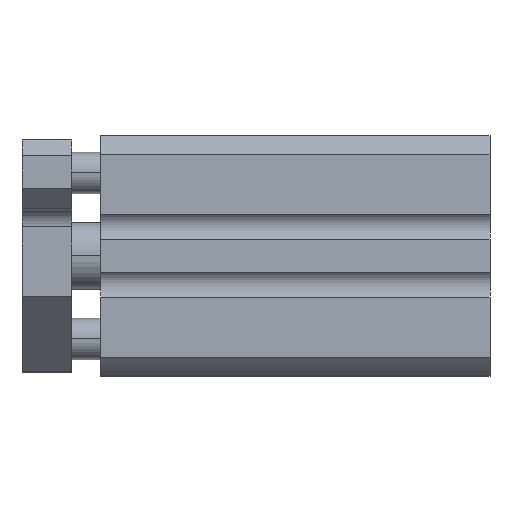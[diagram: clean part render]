
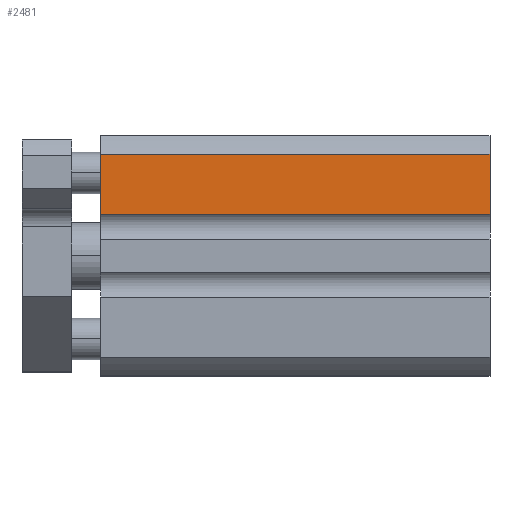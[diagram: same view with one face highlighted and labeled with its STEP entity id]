
A CAD part, top view. The second image highlights one B-rep face of the part: STEP entity #2481.
In plain terms, the highlighted planar face has unit normal (0, 0, 1).
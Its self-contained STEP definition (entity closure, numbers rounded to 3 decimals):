
#65 = DIRECTION ( 'NONE',  ( 0., -1., 0. ) ) ;
#128 = CARTESIAN_POINT ( 'NONE',  ( 0., 5., 14.5 ) ) ;
#233 = DIRECTION ( 'NONE',  ( -1., 0., 0. ) ) ;
#234 = VECTOR ( 'NONE', #65, 1000. ) ;
#828 = CARTESIAN_POINT ( 'NONE',  ( 47., 5., 14.5 ) ) ;
#943 = CARTESIAN_POINT ( 'NONE',  ( 47., 12.278, 14.5 ) ) ;
#1026 = DIRECTION ( 'NONE',  ( 0., -1., 0. ) ) ;
#1166 = EDGE_CURVE ( 'NONE', #3845, #3455, #1779, .T. ) ;
#1312 = DIRECTION ( 'NONE',  ( 0., 0., -1. ) ) ;
#1335 = FACE_OUTER_BOUND ( 'NONE', #2281, .T. ) ;
#1435 = CARTESIAN_POINT ( 'NONE',  ( 47., 12.278, 14.5 ) ) ;
#1604 = EDGE_CURVE ( 'NONE', #3455, #3230, #1715, .T. ) ;
#1607 = VECTOR ( 'NONE', #2264, 1000. ) ;
#1691 = ORIENTED_EDGE ( 'NONE', *, *, #1894, .F. ) ;
#1703 = CARTESIAN_POINT ( 'NONE',  ( 47., 12.278, 14.5 ) ) ;
#1715 = LINE ( 'NONE', #3040, #234 ) ;
#1779 = LINE ( 'NONE', #1435, #3586 ) ;
#1862 = LINE ( 'NONE', #2484, #3357 ) ;
#1894 = EDGE_CURVE ( 'NONE', #3845, #3685, #3917, .T. ) ;
#1998 = ORIENTED_EDGE ( 'NONE', *, *, #1166, .T. ) ;
#2264 = DIRECTION ( 'NONE',  ( 0., -1., 0. ) ) ;
#2265 = CARTESIAN_POINT ( 'NONE',  ( 47., 12.278, 14.5 ) ) ;
#2281 = EDGE_LOOP ( 'NONE', ( #3145, #2932, #1691, #1998 ) ) ;
#2415 = DIRECTION ( 'NONE',  ( -1., 0., 0. ) ) ;
#2481 = ADVANCED_FACE ( 'NONE', ( #1335 ), #2985, .F. ) ;
#2484 = CARTESIAN_POINT ( 'NONE',  ( 47., 5., 14.5 ) ) ;
#2932 = ORIENTED_EDGE ( 'NONE', *, *, #3949, .F. ) ;
#2985 = PLANE ( 'NONE',  #4241 ) ;
#3040 = CARTESIAN_POINT ( 'NONE',  ( 0., 12.278, 14.5 ) ) ;
#3145 = ORIENTED_EDGE ( 'NONE', *, *, #1604, .T. ) ;
#3230 = VERTEX_POINT ( 'NONE', #128 ) ;
#3250 = CARTESIAN_POINT ( 'NONE',  ( 0., 12.278, 14.5 ) ) ;
#3357 = VECTOR ( 'NONE', #233, 1000. ) ;
#3455 = VERTEX_POINT ( 'NONE', #3250 ) ;
#3586 = VECTOR ( 'NONE', #2415, 1000. ) ;
#3685 = VERTEX_POINT ( 'NONE', #828 ) ;
#3845 = VERTEX_POINT ( 'NONE', #2265 ) ;
#3917 = LINE ( 'NONE', #943, #1607 ) ;
#3949 = EDGE_CURVE ( 'NONE', #3685, #3230, #1862, .T. ) ;
#4241 = AXIS2_PLACEMENT_3D ( 'NONE', #1703, #1312, #1026 ) ;
